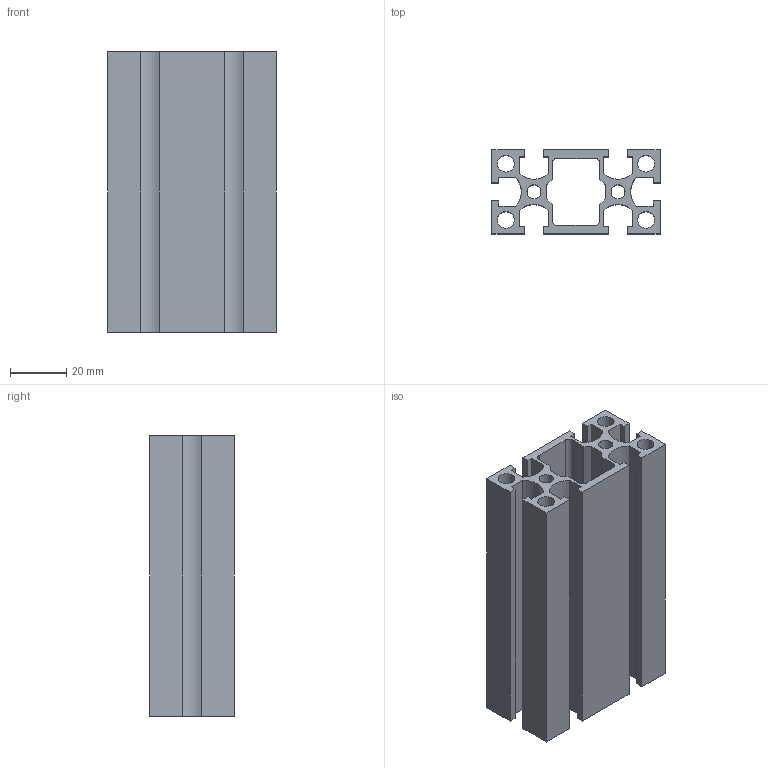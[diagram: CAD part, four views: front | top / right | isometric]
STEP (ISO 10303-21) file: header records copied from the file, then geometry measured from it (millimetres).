
FILE_DESCRIPTION(/* description */ ('Unknown'),/* implementation_level */ '2;1');
FILE_NAME(/* name */ 'NM3060',/* time_stamp */ '2026-08-31T11:16:05+08:00',/* author */ ('Unknown'),/* organization */ ('Unknown'),/* preprocessor_version */ 'ST-DEVELOPER v16.7',/* originating_system */ 'DEX',/* authorisation */ $);
FILE_SCHEMA (('AUTOMOTIVE_DESIGN {1 0 10303 214 3 1 1}'));
Length unit declared in the file: millimetre
Products named in the file (1): 3060-
Bounding box: 60 x 30 x 100 mm (x, y, z)
Volume: 65565.3 mm3; surface area: 53686.6 mm2
Topology: 1 solids, 1 shells, 76 faces, 228 edges, 154 vertices
Faces by surface type: plane 60, cylinder 16
Full cylindrical faces by diameter (mm): 5 x2, 6 x4
Entity records: 2526 total; most frequent: CARTESIAN_POINT 441, ORIENTED_EDGE 432, DIRECTION 402, EDGE_CURVE 216, LINE 184, VECTOR 184, VERTEX_POINT 148, AXIS2_PLACEMENT_3D 109
